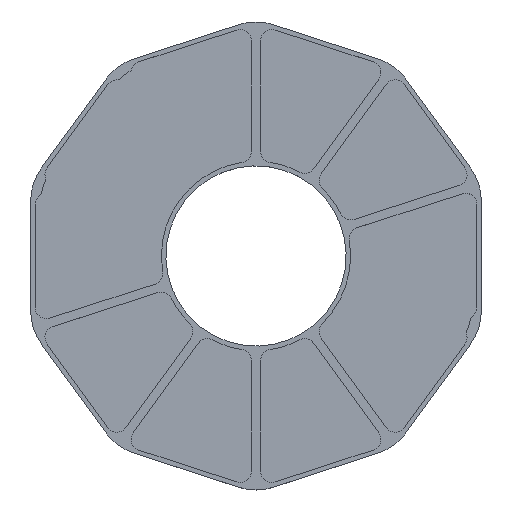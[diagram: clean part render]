
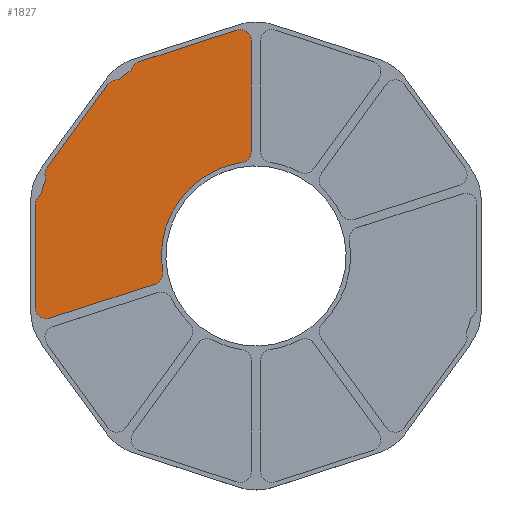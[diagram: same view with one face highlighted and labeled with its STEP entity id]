
A CAD part, top view. The second image highlights one B-rep face of the part: STEP entity #1827.
In plain terms, the highlighted planar face has unit normal (0, 0, 1).
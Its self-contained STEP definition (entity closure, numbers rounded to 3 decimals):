
#66=PLANE('',#2049);
#164=FACE_OUTER_BOUND('',#271,.T.);
#271=EDGE_LOOP('',(#1659,#1660,#1661,#1662,#1663,#1664,#1665,#1666,#1667,
#1668,#1669,#1670,#1671,#1672,#1673,#1674));
#275=CIRCLE('',#1847,33.231);
#277=CIRCLE('',#1850,33.231);
#281=CIRCLE('',#1856,5.);
#283=CIRCLE('',#1859,5.);
#348=CIRCLE('',#1955,5.);
#370=CIRCLE('',#2017,5.);
#371=CIRCLE('',#2019,5.);
#378=CIRCLE('',#2039,5.);
#379=CIRCLE('',#2042,42.);
#380=CIRCLE('',#2044,5.);
#381=CIRCLE('',#2046,5.);
#467=LINE('',#2953,#624);
#518=LINE('',#3105,#675);
#519=LINE('',#3107,#676);
#534=LINE('',#3153,#691);
#537=LINE('',#3165,#694);
#624=VECTOR('',#2367,10.);
#675=VECTOR('',#2546,10.);
#676=VECTOR('',#2549,10.);
#691=VECTOR('',#2602,10.);
#694=VECTOR('',#2619,10.);
#701=VERTEX_POINT('',#2637);
#703=VERTEX_POINT('',#2641);
#705=VERTEX_POINT('',#2646);
#707=VERTEX_POINT('',#2650);
#711=VERTEX_POINT('',#2662);
#713=VERTEX_POINT('',#2668);
#822=VERTEX_POINT('',#2949);
#856=VERTEX_POINT('',#3093);
#857=VERTEX_POINT('',#3094);
#858=VERTEX_POINT('',#3099);
#859=VERTEX_POINT('',#3100);
#869=VERTEX_POINT('',#3145);
#870=VERTEX_POINT('',#3146);
#871=VERTEX_POINT('',#3151);
#872=VERTEX_POINT('',#3157);
#873=VERTEX_POINT('',#3161);
#881=EDGE_CURVE('',#701,#703,#275,.T.);
#885=EDGE_CURVE('',#705,#707,#277,.T.);
#891=EDGE_CURVE('',#703,#711,#281,.T.);
#894=EDGE_CURVE('',#707,#713,#283,.T.);
#1034=EDGE_CURVE('',#822,#705,#348,.T.);
#1036=EDGE_CURVE('',#711,#822,#467,.T.);
#1104=EDGE_CURVE('',#856,#857,#370,.T.);
#1107=EDGE_CURVE('',#858,#859,#371,.T.);
#1110=EDGE_CURVE('',#859,#856,#518,.T.);
#1111=EDGE_CURVE('',#713,#858,#519,.T.);
#1129=EDGE_CURVE('',#869,#870,#378,.T.);
#1133=EDGE_CURVE('',#870,#871,#534,.T.);
#1134=EDGE_CURVE('',#857,#869,#379,.T.);
#1135=EDGE_CURVE('',#872,#701,#380,.T.);
#1137=EDGE_CURVE('',#871,#873,#381,.T.);
#1139=EDGE_CURVE('',#873,#872,#537,.T.);
#1659=ORIENTED_EDGE('',*,*,#1134,.T.);
#1660=ORIENTED_EDGE('',*,*,#1129,.T.);
#1661=ORIENTED_EDGE('',*,*,#1133,.T.);
#1662=ORIENTED_EDGE('',*,*,#1137,.T.);
#1663=ORIENTED_EDGE('',*,*,#1139,.T.);
#1664=ORIENTED_EDGE('',*,*,#1135,.T.);
#1665=ORIENTED_EDGE('',*,*,#881,.T.);
#1666=ORIENTED_EDGE('',*,*,#891,.T.);
#1667=ORIENTED_EDGE('',*,*,#1036,.T.);
#1668=ORIENTED_EDGE('',*,*,#1034,.T.);
#1669=ORIENTED_EDGE('',*,*,#885,.T.);
#1670=ORIENTED_EDGE('',*,*,#894,.T.);
#1671=ORIENTED_EDGE('',*,*,#1111,.T.);
#1672=ORIENTED_EDGE('',*,*,#1107,.T.);
#1673=ORIENTED_EDGE('',*,*,#1110,.T.);
#1674=ORIENTED_EDGE('',*,*,#1104,.T.);
#1827=ADVANCED_FACE('',(#164),#66,.T.);
#1847=AXIS2_PLACEMENT_3D('',#2643,#2066,#2067);
#1850=AXIS2_PLACEMENT_3D('',#2652,#2074,#2075);
#1856=AXIS2_PLACEMENT_3D('',#2664,#2088,#2089);
#1859=AXIS2_PLACEMENT_3D('',#2670,#2095,#2096);
#1955=AXIS2_PLACEMENT_3D('',#2950,#2362,#2363);
#2017=AXIS2_PLACEMENT_3D('',#3095,#2534,#2535);
#2019=AXIS2_PLACEMENT_3D('',#3101,#2540,#2541);
#2039=AXIS2_PLACEMENT_3D('',#3147,#2595,#2596);
#2042=AXIS2_PLACEMENT_3D('',#3155,#2605,#2606);
#2044=AXIS2_PLACEMENT_3D('',#3158,#2609,#2610);
#2046=AXIS2_PLACEMENT_3D('',#3162,#2614,#2615);
#2049=AXIS2_PLACEMENT_3D('',#3168,#2623,#2624);
#2066=DIRECTION('center_axis',(0.,0.,1.));
#2067=DIRECTION('ref_axis',(-0.373,0.928,0.));
#2074=DIRECTION('center_axis',(0.,0.,1.));
#2075=DIRECTION('ref_axis',(-0.847,0.531,0.));
#2088=DIRECTION('center_axis',(0.,0.,1.));
#2089=DIRECTION('ref_axis',(0.,1.,0.));
#2095=DIRECTION('center_axis',(0.,0.,1.));
#2096=DIRECTION('ref_axis',(-0.588,0.809,0.));
#2362=DIRECTION('center_axis',(0.,0.,1.));
#2363=DIRECTION('ref_axis',(-0.951,-0.309,0.));
#2367=DIRECTION('',(-0.588,-0.809,0.));
#2534=DIRECTION('center_axis',(0.,0.,1.));
#2535=DIRECTION('ref_axis',(0.855,-0.519,0.));
#2540=DIRECTION('center_axis',(0.,0.,1.));
#2541=DIRECTION('ref_axis',(-0.588,-0.809,0.));
#2546=DIRECTION('',(0.951,0.309,0.));
#2549=DIRECTION('',(0.,-1.,0.));
#2595=DIRECTION('center_axis',(0.,0.,1.));
#2596=DIRECTION('ref_axis',(0.758,-0.652,0.));
#2602=DIRECTION('',(0.,1.,0.));
#2605=DIRECTION('center_axis',(0.,0.,-1.));
#2606=DIRECTION('ref_axis',(-0.048,0.999,0.));
#2609=DIRECTION('center_axis',(0.,0.,1.));
#2610=DIRECTION('ref_axis',(-0.951,0.309,0.));
#2614=DIRECTION('center_axis',(0.,0.,1.));
#2615=DIRECTION('ref_axis',(0.588,0.809,0.));
#2619=DIRECTION('',(-0.951,-0.309,0.));
#2623=DIRECTION('center_axis',(0.,0.,1.));
#2624=DIRECTION('ref_axis',(-0.309,-0.951,0.));
#2637=CARTESIAN_POINT('',(-55.381,82.36,3.));
#2641=CARTESIAN_POINT('',(-61.223,78.122,3.));
#2643=CARTESIAN_POINT('Origin',(-38.905,53.501,3.));
#2646=CARTESIAN_POINT('',(-93.214,34.079,3.));
#2650=CARTESIAN_POINT('',(-95.45,27.216,3.));
#2652=CARTESIAN_POINT('Origin',(-62.922,20.415,3.));
#2662=CARTESIAN_POINT('',(-65.848,76.095,3.));
#2664=CARTESIAN_POINT('Origin',(-61.803,73.156,3.));
#2668=CARTESIAN_POINT('',(-98.,22.857,3.));
#2670=CARTESIAN_POINT('Origin',(-93.,22.857,3.));
#2949=CARTESIAN_POINT('',(-92.719,39.111,3.));
#2950=CARTESIAN_POINT('Origin',(-88.674,36.172,3.));
#2953=CARTESIAN_POINT('',(-88.024,45.573,3.));
#3093=CARTESIAN_POINT('',(-44.819,-12.46,3.));
#3094=CARTESIAN_POINT('',(-41.432,-6.885,3.));
#3095=CARTESIAN_POINT('Origin',(-46.364,-7.704,3.));
#3099=CARTESIAN_POINT('',(-98.,-22.857,3.));
#3100=CARTESIAN_POINT('',(-91.455,-27.613,3.));
#3101=CARTESIAN_POINT('Origin',(-93.,-22.857,3.));
#3105=CARTESIAN_POINT('',(-20.568,-4.58,3.));
#3107=CARTESIAN_POINT('',(-98.,-14.87,3.));
#3145=CARTESIAN_POINT('',(-6.255,41.532,3.));
#3146=CARTESIAN_POINT('',(-2.,46.476,3.));
#3147=CARTESIAN_POINT('Origin',(-7.,46.476,3.));
#3151=CARTESIAN_POINT('',(-2.,95.512,3.));
#3153=CARTESIAN_POINT('',(-2.,51.197,3.));
#3155=CARTESIAN_POINT('Origin',(0.,0.,3.));
#3157=CARTESIAN_POINT('',(-52.022,86.14,3.));
#3158=CARTESIAN_POINT('Origin',(-50.477,81.385,3.));
#3161=CARTESIAN_POINT('',(-8.545,100.267,3.));
#3162=CARTESIAN_POINT('Origin',(-7.,95.512,3.));
#3165=CARTESIAN_POINT('',(-44.425,88.609,3.));
#3168=CARTESIAN_POINT('Origin',(0.,0.,
3.));
